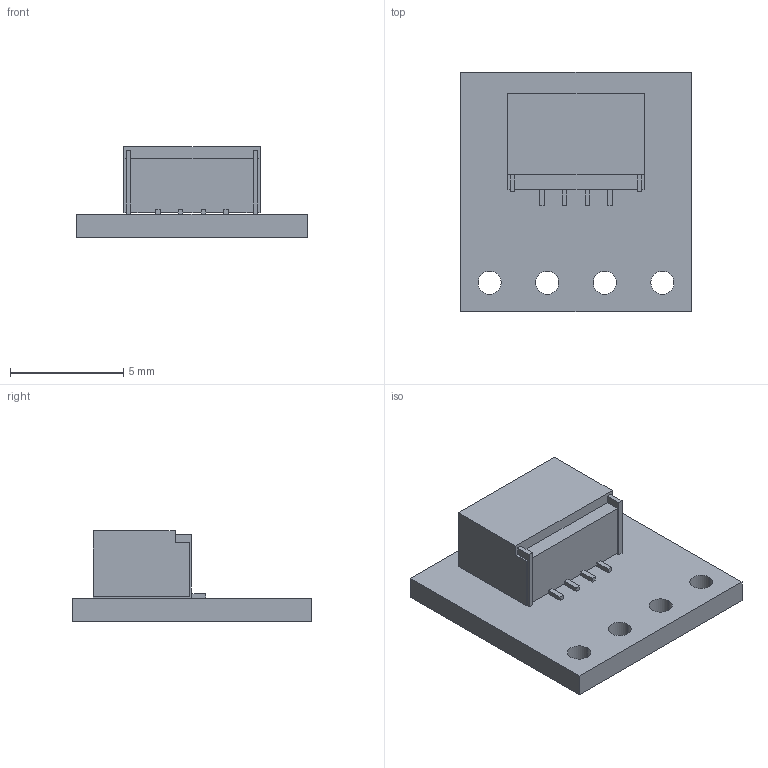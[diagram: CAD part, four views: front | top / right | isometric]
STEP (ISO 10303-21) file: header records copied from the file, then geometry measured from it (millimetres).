
FILE_DESCRIPTION (( 'STEP AP214' ), '1' );
FILE_NAME ('con06a_side.step', '2025-06-12T20:46:32', ( '' ), ( '' ), 'SwSTEP 2.0', 'SolidWorks 2025', '' );
FILE_SCHEMA (( 'AUTOMOTIVE_DESIGN' ));
Length unit declared in the file: millimetre
Products named in the file (1): con06a_side
Bounding box: 10.16 x 10.54 x 3.99 mm (x, y, z)
Volume: 149.8 mm3; surface area: 424.2 mm2
Topology: 1 solids, 1 shells, 478 faces, 1299 edges, 866 vertices
Faces by surface type: plane 276, bspline 194, cylinder 8
Entity records: 27464 total; most frequent: CARTESIAN_POINT 11478, ORIENTED_EDGE 2598, DIRECTION 1497, EDGE_CURVE 1299, LINE 895, VECTOR 895, VERTEX_POINT 866, EDGE_LOOP 539
